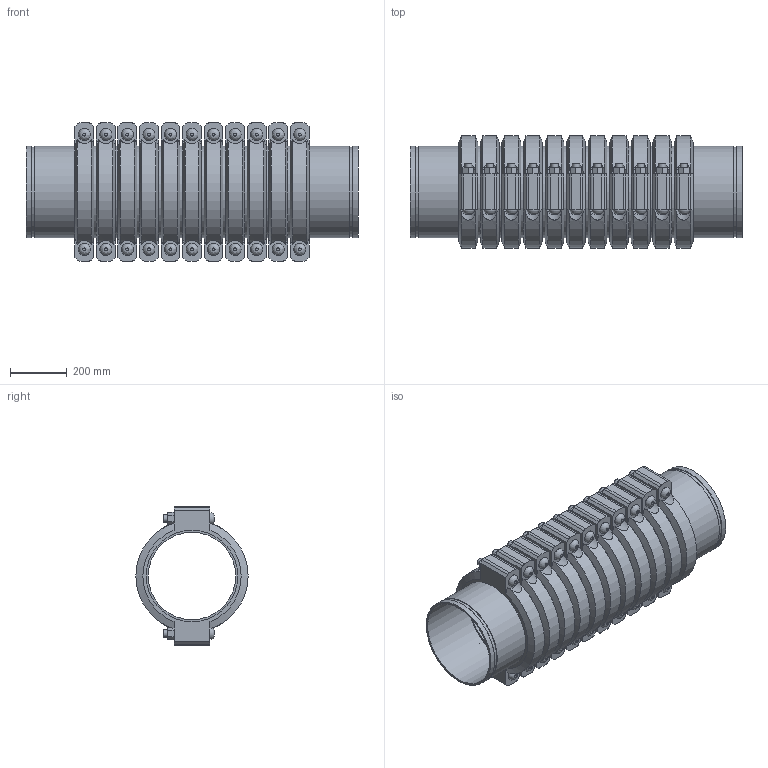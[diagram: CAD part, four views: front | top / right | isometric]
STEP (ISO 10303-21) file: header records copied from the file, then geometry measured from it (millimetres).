
FILE_DESCRIPTION(/* description */ ('VIC EXPANSION JOINT 11 COUPLINGS EXPANDED STYLE 155 (OGS)','CAx-IF Rec.Pracs.---Representation and Presentation of Product Manufacturing Information (PMI)---4.0---2014-10-13'),/* implementation_level */ '2;1');
FILE_NAME(/* name */ 'C:\Users\kkamble\AppData\Roaming\Autodesk\ApplicationPlugins\Victaulic.Temp\A474\Victaulic_IPS_Expansion Joint_Expanded_11 Couplings_Style 155 (OGS)_12 (300).stp',/* time_stamp */ '2021-06-26T23:52:45+02:00',/* author */ ('kkamble'),/* organization */ ('Victaulic'),/* preprocessor_version */ 'ST-DEVELOPER v17.2',/* originating_system */ 'Autodesk Inventor 2019',/* authorisation */ '');
FILE_SCHEMA (('AP242_MANAGED_MODEL_BASED_3D_ENGINEERING_MIM_LF { 1 0 10303 442 1 1 4 }'));
Length unit declared in the file: inch
Products named in the file (4): 155-12.0; Nipple-12.0; Nipple-12.0_1; 077-12.0
Assembly tree (23 placements, depth 2):
  155-12.0
    Nipple-12.0  x2
    Nipple-12.0_1  x10
    077-12.0  x11
Bounding box: 1174.75 x 397 x 488.95 mm (x, y, z)
Volume: 44713635.5 mm3; surface area: 6084749.8 mm2
Topology: 23 solids, 45 shells, 815 faces, 1955 edges, 1366 vertices
Faces by surface type: plane 468, cylinder 281, cone 44, bspline 22
Full cylindrical faces by diameter (mm): 25.4 x44, 27.432 x22, 309.677 x12, 314.96 x11, 318.287 x24, 323.85 x58
Entity records: 3153 total; most frequent: CARTESIAN_POINT 671, DIRECTION 501, ORIENTED_EDGE 410, AXIS2_PLACEMENT_3D 206, EDGE_CURVE 205, VERTEX_POINT 146, EDGE_LOOP 111, CIRCLE 96
